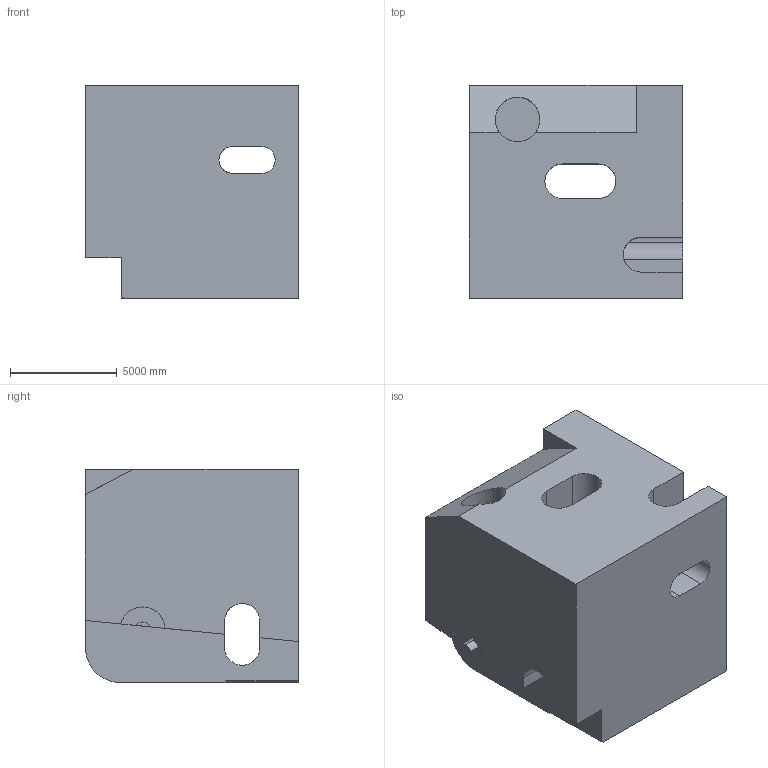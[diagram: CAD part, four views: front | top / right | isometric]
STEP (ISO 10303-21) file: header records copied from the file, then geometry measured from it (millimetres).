
FILE_DESCRIPTION (( 'STEP AP203' ), '1' );
FILE_NAME ('394.STEP', '2022-09-07T15:30:33', ( 'user' ), ( '' ), 'SwSTEP 2.0', 'SolidWorks 2021', '' );
FILE_SCHEMA (( 'CONFIG_CONTROL_DESIGN' ));
Length unit declared in the file: centimetre
Products named in the file (1): 394
Bounding box: 10000 x 10000 x 10000 mm (x, y, z)
Volume: 783982932035.8 mm3; surface area: 813460142.3 mm2
Topology: 1 solids, 1 shells, 43 faces, 138 edges, 92 vertices
Faces by surface type: plane 25, cylinder 18
Entity records: 2085 total; most frequent: CARTESIAN_POINT 752, ORIENTED_EDGE 276, DIRECTION 254, EDGE_CURVE 138, LINE 96, VECTOR 96, VERTEX_POINT 92, AXIS2_PLACEMENT_3D 79
